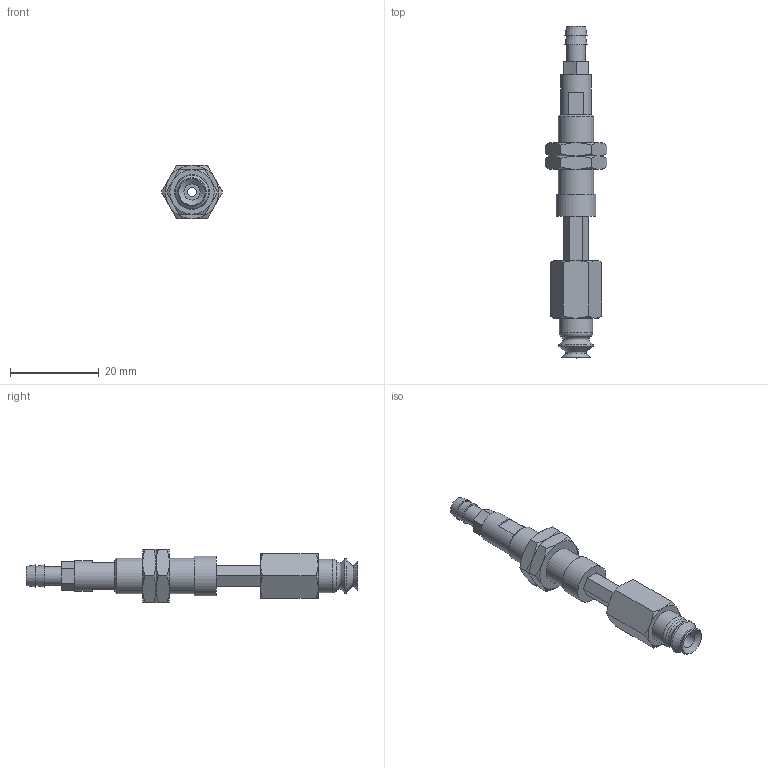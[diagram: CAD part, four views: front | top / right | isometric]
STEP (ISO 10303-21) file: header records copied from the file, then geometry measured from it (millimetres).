
FILE_DESCRIPTION(('STEP AP203'),'1');
FILE_NAME('-T.stp','2025-08-27T06:22:01',(' '),(' '),'Spatial InterOp 3D',' ',' ');
FILE_SCHEMA(('CONFIG_CONTROL_DESIGN'));
Length unit declared in the file: millimetre
Products named in the file (7): BNABPJTH-6-10-※-T; ADAPTER; NAPATH-10A-10--M; NAPJH-6-10-NUT; NAPJTH-6-10-FBODY; BPJG-6-※; T
Assembly tree (7 placements, depth 2):
  BNABPJTH-6-10-※-T
    ADAPTER
    NAPATH-10A-10--M
    NAPJH-6-10-NUT  x2
    NAPJTH-6-10-FBODY
    BPJG-6-※
    T
Bounding box: 13.86 x 75 x 12 mm (x, y, z)
Volume: 3577.3 mm3; surface area: 4461.1 mm2
Topology: 7 solids, 7 shells, 143 faces, 310 edges, 190 vertices
Faces by surface type: plane 63, cone 52, cylinder 17, torus 11
Full cylindrical faces by diameter (mm): 2 x2, 3 x1, 3.64 x1, 4 x2, 4.134 x1, 4.3 x1, 5 x1, 6 x2, 7 x1, 7.188 x2, 7.5 x1, 8 x1, 9 x1
Entity records: 3502 total; most frequent: CARTESIAN_POINT 774, DIRECTION 500, ORIENTED_EDGE 416, AXIS2_PLACEMENT_3D 212, EDGE_CURVE 208, EDGE_LOOP 182, VERTEX_POINT 150, FACE_OUTER_BOUND 147
